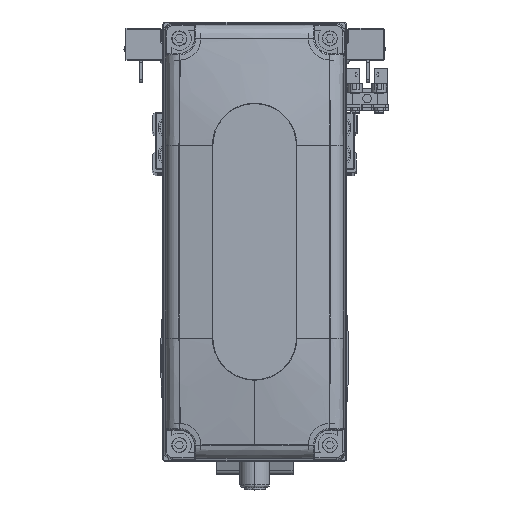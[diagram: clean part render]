
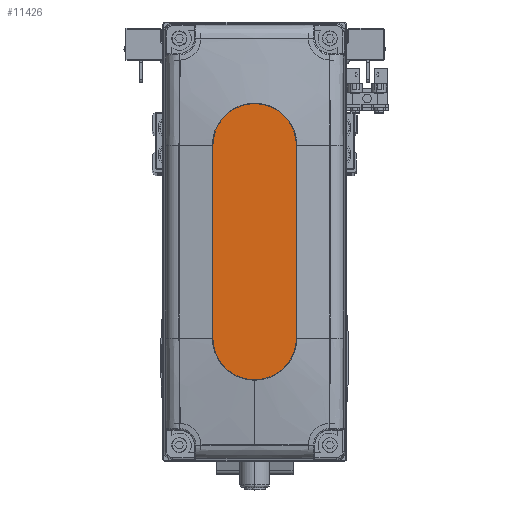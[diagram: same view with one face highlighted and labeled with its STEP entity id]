
A CAD part, top view. The second image highlights one B-rep face of the part: STEP entity #11426.
In plain terms, the highlighted planar face has unit normal (0, 0, 1).
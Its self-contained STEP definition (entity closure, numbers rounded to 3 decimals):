
#772 = DIRECTION ( 'NONE',  ( 1., 0., 0. ) ) ;
#1873 = DIRECTION ( 'NONE',  ( -1., 0., 0. ) ) ;
#2782 = CARTESIAN_POINT ( 'NONE',  ( -32., 14., 35. ) ) ;
#3606 = CARTESIAN_POINT ( 'NONE',  ( -32., -14., 35. ) ) ;
#3637 = CARTESIAN_POINT ( 'NONE',  ( 32., 0., 35. ) ) ;
#3747 = VERTEX_POINT ( 'NONE', #10737 ) ;
#4254 = PLANE ( 'NONE',  #32968 ) ;
#4405 = VERTEX_POINT ( 'NONE', #3606 ) ;
#4765 = VERTEX_POINT ( 'NONE', #35054 ) ;
#7084 = CARTESIAN_POINT ( 'NONE',  ( -32., -14., 35. ) ) ;
#7532 = EDGE_CURVE ( 'NONE', #3747, #4765, #10395, .T. ) ;
#9472 = AXIS2_PLACEMENT_3D ( 'NONE', #3637, #17792, #31903 ) ;
#10395 = CIRCLE ( 'NONE', #36253, 14. ) ;
#10737 = CARTESIAN_POINT ( 'NONE',  ( 46., 0., 35. ) ) ;
#11426 = ADVANCED_FACE ( 'NONE', ( #35968 ), #4254, .T. ) ;
#12029 = ORIENTED_EDGE ( 'NONE', *, *, #40865, .T. ) ;
#12878 = DIRECTION ( 'NONE',  ( 1., 0., 0. ) ) ;
#13227 = CARTESIAN_POINT ( 'NONE',  ( -32., 0., 35. ) ) ;
#14240 = ORIENTED_EDGE ( 'NONE', *, *, #26823, .T. ) ;
#16403 = VECTOR ( 'NONE', #21236, 1000. ) ;
#17792 = DIRECTION ( 'NONE',  ( 0., 0., 1. ) ) ;
#18394 = CARTESIAN_POINT ( 'NONE',  ( 0., 0., 35. ) ) ;
#19511 = LINE ( 'NONE', #33599, #31196 ) ;
#19830 = CARTESIAN_POINT ( 'NONE',  ( 32., 0., 35. ) ) ;
#21236 = DIRECTION ( 'NONE',  ( 1., 0., 0. ) ) ;
#21243 = ORIENTED_EDGE ( 'NONE', *, *, #7532, .T. ) ;
#23176 = AXIS2_PLACEMENT_3D ( 'NONE', #13227, #27368, #41467 ) ;
#24325 = ORIENTED_EDGE ( 'NONE', *, *, #25459, .T. ) ;
#25459 = EDGE_CURVE ( 'NONE', #4765, #33859, #19511, .T. ) ;
#26823 = EDGE_CURVE ( 'NONE', #33859, #4405, #43088, .T. ) ;
#27368 = DIRECTION ( 'NONE',  ( 0., 0., 1. ) ) ;
#29430 = CIRCLE ( 'NONE', #9472, 14. ) ;
#31196 = VECTOR ( 'NONE', #1873, 1000. ) ;
#31903 = DIRECTION ( 'NONE',  ( 1., 0., 0. ) ) ;
#32497 = DIRECTION ( 'NONE',  ( 0., 0., 1. ) ) ;
#32968 = AXIS2_PLACEMENT_3D ( 'NONE', #18394, #32497, #772 ) ;
#33599 = CARTESIAN_POINT ( 'NONE',  ( -32., 14., 35. ) ) ;
#33859 = VERTEX_POINT ( 'NONE', #2782 ) ;
#34029 = CARTESIAN_POINT ( 'NONE',  ( 32., -14., 35. ) ) ;
#35054 = CARTESIAN_POINT ( 'NONE',  ( 32., 14., 35. ) ) ;
#35968 = FACE_OUTER_BOUND ( 'NONE', #39369, .T. ) ;
#36253 = AXIS2_PLACEMENT_3D ( 'NONE', #19830, #44599, #12878 ) ;
#38801 = LINE ( 'NONE', #7084, #16403 ) ;
#39369 = EDGE_LOOP ( 'NONE', ( #24325, #14240, #41066, #12029, #21243 ) ) ;
#39529 = VERTEX_POINT ( 'NONE', #34029 ) ;
#40865 = EDGE_CURVE ( 'NONE', #39529, #3747, #29430, .T. ) ;
#41066 = ORIENTED_EDGE ( 'NONE', *, *, #43635, .T. ) ;
#41467 = DIRECTION ( 'NONE',  ( 1., 0., 0. ) ) ;
#43088 = CIRCLE ( 'NONE', #23176, 14. ) ;
#43635 = EDGE_CURVE ( 'NONE', #4405, #39529, #38801, .T. ) ;
#44599 = DIRECTION ( 'NONE',  ( 0., 0., 1. ) ) ;
